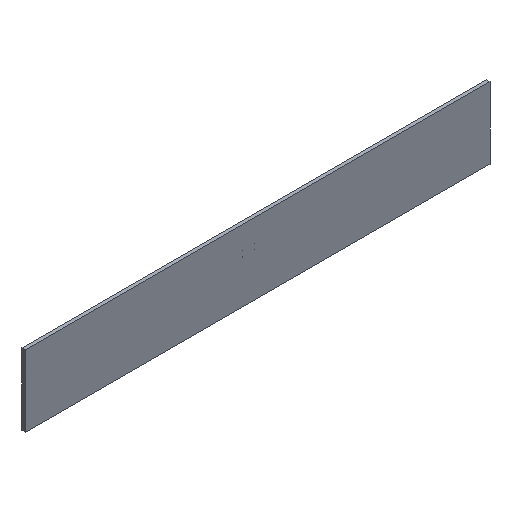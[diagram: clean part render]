
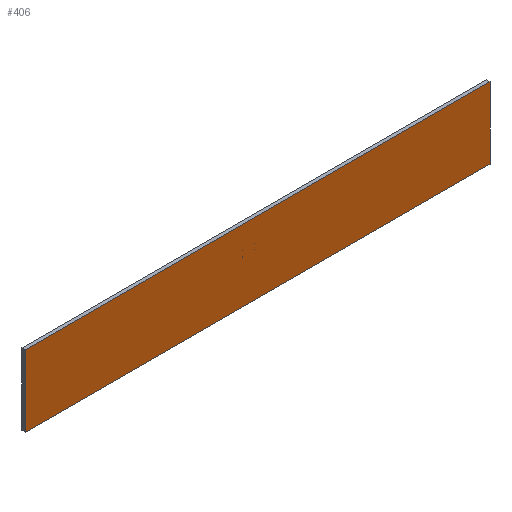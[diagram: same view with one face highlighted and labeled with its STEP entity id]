
A CAD part, isometric view. The second image highlights one B-rep face of the part: STEP entity #406.
In plain terms, the highlighted planar face has unit normal (0, -1, 0).
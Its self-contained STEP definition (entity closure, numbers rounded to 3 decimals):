
#9 = VECTOR ( 'NONE', #306, 1000. ) ;
#11 = VERTEX_POINT ( 'NONE', #311 ) ;
#12 = CARTESIAN_POINT ( 'NONE',  ( 6500., -100., 1000. ) ) ;
#13 = VERTEX_POINT ( 'NONE', #275 ) ;
#14 = EDGE_CURVE ( 'NONE', #417, #13, #331, .T. ) ;
#16 = EDGE_LOOP ( 'NONE', ( #211, #229 ) ) ;
#18 = CARTESIAN_POINT ( 'NONE',  ( -435., -100., 215. ) ) ;
#25 = CARTESIAN_POINT ( 'NONE',  ( -85., -100., 370. ) ) ;
#29 = FACE_BOUND ( 'NONE', #99, .T. ) ;
#33 = DIRECTION ( 'NONE',  ( 0., 0., 1. ) ) ;
#34 = EDGE_LOOP ( 'NONE', ( #342, #48, #344, #396 ) ) ;
#37 = AXIS2_PLACEMENT_3D ( 'NONE', #303, #346, #474 ) ;
#44 = LINE ( 'NONE', #82, #282 ) ;
#48 = ORIENTED_EDGE ( 'NONE', *, *, #493, .F. ) ;
#59 = ORIENTED_EDGE ( 'NONE', *, *, #14, .T. ) ;
#71 = VERTEX_POINT ( 'NONE', #494 ) ;
#73 = FACE_BOUND ( 'NONE', #16, .T. ) ;
#81 = AXIS2_PLACEMENT_3D ( 'NONE', #146, #114, #438 ) ;
#82 = CARTESIAN_POINT ( 'NONE',  ( 6500., -100., -1000. ) ) ;
#92 = AXIS2_PLACEMENT_3D ( 'NONE', #236, #163, #33 ) ;
#97 = VERTEX_POINT ( 'NONE', #409 ) ;
#98 = CARTESIAN_POINT ( 'NONE',  ( -6500., -100., 1000. ) ) ;
#99 = EDGE_LOOP ( 'NONE', ( #210, #467 ) ) ;
#103 = ORIENTED_EDGE ( 'NONE', *, *, #106, .T. ) ;
#106 = EDGE_CURVE ( 'NONE', #457, #134, #190, .T. ) ;
#110 = CIRCLE ( 'NONE', #370, 5. ) ;
#114 = DIRECTION ( 'NONE',  ( 0., 1., 0. ) ) ;
#127 = CIRCLE ( 'NONE', #454, 5. ) ;
#131 = DIRECTION ( 'NONE',  ( 0., 0., 1. ) ) ;
#134 = VERTEX_POINT ( 'NONE', #451 ) ;
#135 = CARTESIAN_POINT ( 'NONE',  ( -85., -100., 220. ) ) ;
#142 = DIRECTION ( 'NONE',  ( 0., 0., 1. ) ) ;
#146 = CARTESIAN_POINT ( 'NONE',  ( -435., -100., 370. ) ) ;
#147 = LINE ( 'NONE', #225, #9 ) ;
#163 = DIRECTION ( 'NONE',  ( 0., 1., 0. ) ) ;
#181 = LINE ( 'NONE', #456, #428 ) ;
#182 = EDGE_CURVE ( 'NONE', #375, #97, #44, .T. ) ;
#184 = FACE_BOUND ( 'NONE', #258, .T. ) ;
#188 = DIRECTION ( 'NONE',  ( 0., 0., 1. ) ) ;
#190 = CIRCLE ( 'NONE', #92, 5. ) ;
#198 = EDGE_CURVE ( 'NONE', #221, #11, #446, .T. ) ;
#201 = DIRECTION ( 'NONE',  ( 0., 0., 1. ) ) ;
#203 = DIRECTION ( 'NONE',  ( 0., 0., -1. ) ) ;
#210 = ORIENTED_EDGE ( 'NONE', *, *, #529, .T. ) ;
#211 = ORIENTED_EDGE ( 'NONE', *, *, #418, .T. ) ;
#221 = VERTEX_POINT ( 'NONE', #330 ) ;
#225 = CARTESIAN_POINT ( 'NONE',  ( -6500., -100., -1000. ) ) ;
#229 = ORIENTED_EDGE ( 'NONE', *, *, #261, .T. ) ;
#236 = CARTESIAN_POINT ( 'NONE',  ( -85., -100., 220. ) ) ;
#249 = CARTESIAN_POINT ( 'NONE',  ( -435., -100., 225. ) ) ;
#253 = DIRECTION ( 'NONE',  ( 0., 0., 1. ) ) ;
#255 = DIRECTION ( 'NONE',  ( 0., 1., 0. ) ) ;
#258 = EDGE_LOOP ( 'NONE', ( #263, #59 ) ) ;
#261 = EDGE_CURVE ( 'NONE', #510, #312, #350, .T. ) ;
#262 = CARTESIAN_POINT ( 'NONE',  ( -85., -100., 225. ) ) ;
#263 = ORIENTED_EDGE ( 'NONE', *, *, #424, .T. ) ;
#268 = PLANE ( 'NONE',  #37 ) ;
#269 = EDGE_CURVE ( 'NONE', #71, #336, #181, .T. ) ;
#270 = EDGE_LOOP ( 'NONE', ( #103, #378 ) ) ;
#275 = CARTESIAN_POINT ( 'NONE',  ( -435., -100., 375. ) ) ;
#282 = VECTOR ( 'NONE', #203, 1000. ) ;
#284 = EDGE_CURVE ( 'NONE', #134, #457, #127, .T. ) ;
#293 = DIRECTION ( 'NONE',  ( 0., 1., 0. ) ) ;
#301 = DIRECTION ( 'NONE',  ( 0., 1., 0. ) ) ;
#303 = CARTESIAN_POINT ( 'NONE',  ( 0., -100., 0. ) ) ;
#306 = DIRECTION ( 'NONE',  ( -1., 0., 0. ) ) ;
#310 = CARTESIAN_POINT ( 'NONE',  ( -435., -100., 220. ) ) ;
#311 = CARTESIAN_POINT ( 'NONE',  ( -85., -100., 375. ) ) ;
#312 = VERTEX_POINT ( 'NONE', #249 ) ;
#330 = CARTESIAN_POINT ( 'NONE',  ( -85., -100., 365. ) ) ;
#331 = CIRCLE ( 'NONE', #81, 5. ) ;
#336 = VERTEX_POINT ( 'NONE', #98 ) ;
#342 = ORIENTED_EDGE ( 'NONE', *, *, #182, .F. ) ;
#343 = FACE_OUTER_BOUND ( 'NONE', #34, .T. ) ;
#344 = ORIENTED_EDGE ( 'NONE', *, *, #269, .F. ) ;
#346 = DIRECTION ( 'NONE',  ( 0., 1., 0. ) ) ;
#350 = CIRCLE ( 'NONE', #506, 5. ) ;
#352 = DIRECTION ( 'NONE',  ( 0., 1., 0. ) ) ;
#370 = AXIS2_PLACEMENT_3D ( 'NONE', #507, #301, #142 ) ;
#375 = VERTEX_POINT ( 'NONE', #12 ) ;
#376 = CIRCLE ( 'NONE', #447, 5. ) ;
#378 = ORIENTED_EDGE ( 'NONE', *, *, #284, .T. ) ;
#390 = FACE_BOUND ( 'NONE', #270, .T. ) ;
#392 = LINE ( 'NONE', #437, #439 ) ;
#394 = CARTESIAN_POINT ( 'NONE',  ( -435., -100., 365. ) ) ;
#396 = ORIENTED_EDGE ( 'NONE', *, *, #458, .F. ) ;
#406 = ADVANCED_FACE ( 'NONE', ( #29, #73, #184, #390, #343 ), #268, .F. ) ;
#408 = CARTESIAN_POINT ( 'NONE',  ( -85., -100., 370. ) ) ;
#409 = CARTESIAN_POINT ( 'NONE',  ( 6500., -100., -1000. ) ) ;
#411 = CIRCLE ( 'NONE', #490, 5. ) ;
#417 = VERTEX_POINT ( 'NONE', #394 ) ;
#418 = EDGE_CURVE ( 'NONE', #312, #510, #411, .T. ) ;
#422 = DIRECTION ( 'NONE',  ( 0., 0., 1. ) ) ;
#424 = EDGE_CURVE ( 'NONE', #13, #417, #110, .T. ) ;
#425 = DIRECTION ( 'NONE',  ( 1., 0., 0. ) ) ;
#428 = VECTOR ( 'NONE', #131, 1000. ) ;
#437 = CARTESIAN_POINT ( 'NONE',  ( -6500., -100., 1000. ) ) ;
#438 = DIRECTION ( 'NONE',  ( 0., 0., 1. ) ) ;
#439 = VECTOR ( 'NONE', #425, 1000. ) ;
#446 = CIRCLE ( 'NONE', #523, 5. ) ;
#447 = AXIS2_PLACEMENT_3D ( 'NONE', #25, #352, #518 ) ;
#451 = CARTESIAN_POINT ( 'NONE',  ( -85., -100., 215. ) ) ;
#454 = AXIS2_PLACEMENT_3D ( 'NONE', #135, #255, #253 ) ;
#456 = CARTESIAN_POINT ( 'NONE',  ( -6500., -100., -1000. ) ) ;
#457 = VERTEX_POINT ( 'NONE', #262 ) ;
#458 = EDGE_CURVE ( 'NONE', #97, #71, #147, .T. ) ;
#467 = ORIENTED_EDGE ( 'NONE', *, *, #198, .T. ) ;
#471 = DIRECTION ( 'NONE',  ( 0., 1., 0. ) ) ;
#474 = DIRECTION ( 'NONE',  ( 0., 0., 1. ) ) ;
#488 = DIRECTION ( 'NONE',  ( 0., 1., 0. ) ) ;
#490 = AXIS2_PLACEMENT_3D ( 'NONE', #310, #471, #188 ) ;
#493 = EDGE_CURVE ( 'NONE', #336, #375, #392, .T. ) ;
#494 = CARTESIAN_POINT ( 'NONE',  ( -6500., -100., -1000. ) ) ;
#496 = CARTESIAN_POINT ( 'NONE',  ( -435., -100., 220. ) ) ;
#506 = AXIS2_PLACEMENT_3D ( 'NONE', #496, #293, #422 ) ;
#507 = CARTESIAN_POINT ( 'NONE',  ( -435., -100., 370. ) ) ;
#510 = VERTEX_POINT ( 'NONE', #18 ) ;
#518 = DIRECTION ( 'NONE',  ( 0., 0., 1. ) ) ;
#523 = AXIS2_PLACEMENT_3D ( 'NONE', #408, #488, #201 ) ;
#529 = EDGE_CURVE ( 'NONE', #11, #221, #376, .T. ) ;
